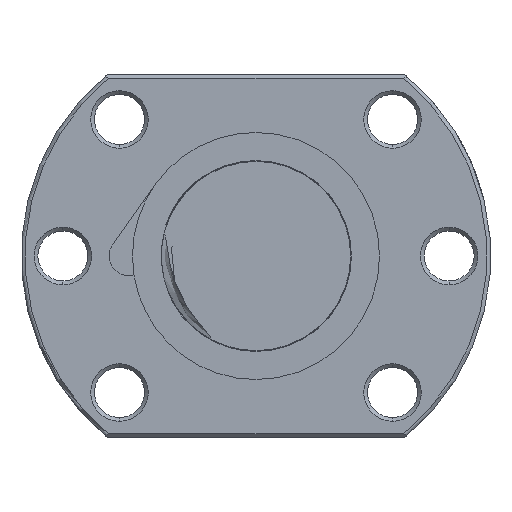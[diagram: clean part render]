
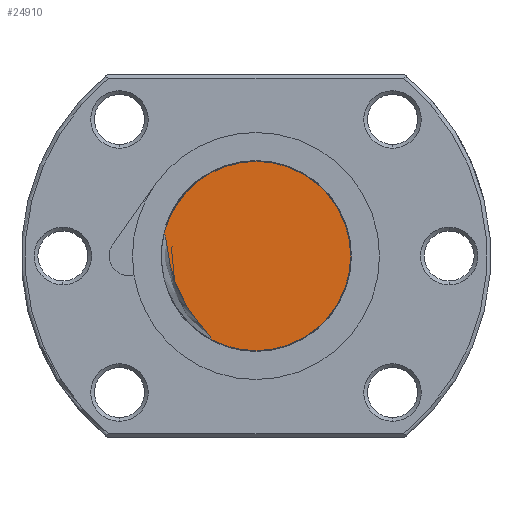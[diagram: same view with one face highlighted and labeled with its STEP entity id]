
A CAD part, left-side view. The second image highlights one B-rep face of the part: STEP entity #24910.
In plain terms, the highlighted planar face has unit normal (-1, 0, 0).
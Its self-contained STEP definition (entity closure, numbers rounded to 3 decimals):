
#16697 = CARTESIAN_POINT ( 'NONE',  ( -241., 0., 12.5 ) ) ;
#16698 = DIRECTION ( 'NONE',  ( 0., 1., 0. ) ) ;
#16699 = DIRECTION ( 'NONE',  ( 1., 0., 0. ) ) ;
#16700 = AXIS2_PLACEMENT_3D ( 'NONE', #16706, #16699, #16698 ) ;
#16701 = CIRCLE ( 'NONE', #16700, 12.5 ) ;
#16706 = CARTESIAN_POINT ( 'NONE',  ( -241., 0., 0. ) ) ;
#16708 = DIRECTION ( 'NONE',  ( 0., 1., 0. ) ) ;
#16709 = DIRECTION ( 'NONE',  ( 1., 0., 0. ) ) ;
#16710 = AXIS2_PLACEMENT_3D ( 'NONE', #16756, #16709, #16708 ) ;
#16711 = CIRCLE ( 'NONE', #16710, 12.5 ) ;
#16756 = CARTESIAN_POINT ( 'NONE',  ( -241., 0., 0. ) ) ;
#17028 = CARTESIAN_POINT ( 'NONE',  ( -241., 5.854, -11.044 ) ) ;
#17030 = CARTESIAN_POINT ( 'NONE',  ( -241., 5.903, -10.888 ) ) ;
#17032 = CARTESIAN_POINT ( 'NONE',  ( -241., 5.989, -10.747 ) ) ;
#17034 = CARTESIAN_POINT ( 'NONE',  ( -241., 6.17, -10.474 ) ) ;
#17036 = CARTESIAN_POINT ( 'NONE',  ( -241., 6.269, -10.344 ) ) ;
#17038 = CARTESIAN_POINT ( 'NONE',  ( -241., 6.573, -9.958 ) ) ;
#17040 = CARTESIAN_POINT ( 'NONE',  ( -241., 6.786, -9.709 ) ) ;
#17042 = CARTESIAN_POINT ( 'NONE',  ( -241., 7.422, -8.959 ) ) ;
#17044 = CARTESIAN_POINT ( 'NONE',  ( -241., 7.841, -8.455 ) ) ;
#17046 = CARTESIAN_POINT ( 'NONE',  ( -241., 8.628, -7.409 ) ) ;
#17048 = CARTESIAN_POINT ( 'NONE',  ( -241., 8.998, -6.868 ) ) ;
#17050 = CARTESIAN_POINT ( 'NONE',  ( -241., 9.674, -5.739 ) ) ;
#17052 = CARTESIAN_POINT ( 'NONE',  ( -241., 9.978, -5.157 ) ) ;
#17054 = CARTESIAN_POINT ( 'NONE',  ( -241., 10.507, -3.965 ) ) ;
#17056 = CARTESIAN_POINT ( 'NONE',  ( -241., 10.734, -3.355 ) ) ;
#17058 = CARTESIAN_POINT ( 'NONE',  ( -241., 11.119, -2.108 ) ) ;
#17060 = CARTESIAN_POINT ( 'NONE',  ( -241., 11.276, -1.468 ) ) ;
#17062 = CARTESIAN_POINT ( 'NONE',  ( -241., 11.531, -0.178 ) ) ;
#17063 = CARTESIAN_POINT ( 'NONE',  ( -241., 11.625, 0.472 ) ) ;
#17065 = CARTESIAN_POINT ( 'NONE',  ( -241., 11.757, 1.449 ) ) ;
#17066 = CARTESIAN_POINT ( 'NONE',  ( -241., 11.799, 1.775 ) ) ;
#17068 = CARTESIAN_POINT ( 'NONE',  ( -241., 11.881, 2.26 ) ) ;
#17069 = CARTESIAN_POINT ( 'NONE',  ( -241., 11.911, 2.421 ) ) ;
#17070 = CARTESIAN_POINT ( 'NONE',  ( -241., 11.972, 2.659 ) ) ;
#17072 = CARTESIAN_POINT ( 'NONE',  ( -241., 11.995, 2.738 ) ) ;
#17074 = CARTESIAN_POINT ( 'NONE',  ( -241., 12.05, 2.892 ) ) ;
#17075 = CARTESIAN_POINT ( 'NONE',  ( -241., 12.082, 2.969 ) ) ;
#17076 = CARTESIAN_POINT ( 'NONE',  ( -241., 12.125, 3.04 ) ) ;
#17091 = B_SPLINE_CURVE_WITH_KNOTS ( 'NONE', 3,
 ( #17076, #17075, #17074, #17072, #17070, #17069, #17068, #17066, #17065, #17063, #17062, #17060, #17058, #17056, #17054, #17052, #17050, #17048, #17046, #17044, #17042, #17040, #17038, #17036, #17034, #17032, #17030, #17028 ),
 .UNSPECIFIED., .F., .F.,
 ( 4, 2, 2, 2, 2, 2, 2, 2, 2, 2, 2, 2, 2, 4 ),
 ( 0.001, 0.001, 0.001, 0.002, 0.003, 0.005, 0.007, 0.009, 0.011, 0.013, 0.015, 0.016, 0.016, 0.017 ),
 .UNSPECIFIED. ) ;
#17101 = DIRECTION ( 'NONE',  ( 0., 0., -1. ) ) ;
#17103 = DIRECTION ( 'NONE',  ( 1., 0., 0. ) ) ;
#17105 = CARTESIAN_POINT ( 'NONE',  ( -241., 0., 0. ) ) ;
#17106 = AXIS2_PLACEMENT_3D ( 'NONE', #17105, #17103, #17101 ) ;
#17108 = PLANE ( 'NONE',  #17106 ) ;
#17113 = FACE_OUTER_BOUND ( 'NONE', #24911, .T. ) ;
#17233 = CARTESIAN_POINT ( 'NONE',  ( -241., 5.854, -11.044 ) ) ;
#18326 = DIRECTION ( 'NONE',  ( 0., 1., 0. ) ) ;
#18327 = DIRECTION ( 'NONE',  ( 1., 0., 0. ) ) ;
#18328 = AXIS2_PLACEMENT_3D ( 'NONE', #18333, #18327, #18326 ) ;
#18329 = CIRCLE ( 'NONE', #18328, 12.5 ) ;
#18333 = CARTESIAN_POINT ( 'NONE',  ( -241., 0., 0. ) ) ;
#24300 = VERTEX_POINT ( 'NONE', #26653 ) ;
#24320 = VERTEX_POINT ( 'NONE', #26642 ) ;
#24868 = EDGE_CURVE ( 'NONE', #24320, #24889, #16711, .T. ) ;
#24877 = EDGE_CURVE ( 'NONE', #24300, #24878, #16701, .T. ) ;
#24878 = VERTEX_POINT ( 'NONE', #16697 ) ;
#24889 = VERTEX_POINT ( 'NONE', #17233 ) ;
#24910 = ADVANCED_FACE ( 'NONE', ( #17113 ), #17108, .F. ) ;
#24911 = EDGE_LOOP ( 'NONE', ( #24912, #24942, #24944, #24945 ) ) ;
#24912 = ORIENTED_EDGE ( 'NONE', *, *, #24877, .F. ) ;
#24942 = ORIENTED_EDGE ( 'NONE', *, *, #24943, .T. ) ;
#24943 = EDGE_CURVE ( 'NONE', #24300, #24889, #17091, .T. ) ;
#24944 = ORIENTED_EDGE ( 'NONE', *, *, #24868, .F. ) ;
#24945 = ORIENTED_EDGE ( 'NONE', *, *, #25133, .F. ) ;
#25133 = EDGE_CURVE ( 'NONE', #24878, #24320, #18329, .T. ) ;
#26642 = CARTESIAN_POINT ( 'NONE',  ( -241., 0., -12.5 ) ) ;
#26653 = CARTESIAN_POINT ( 'NONE',  ( -241., 12.125, 3.04 ) ) ;
